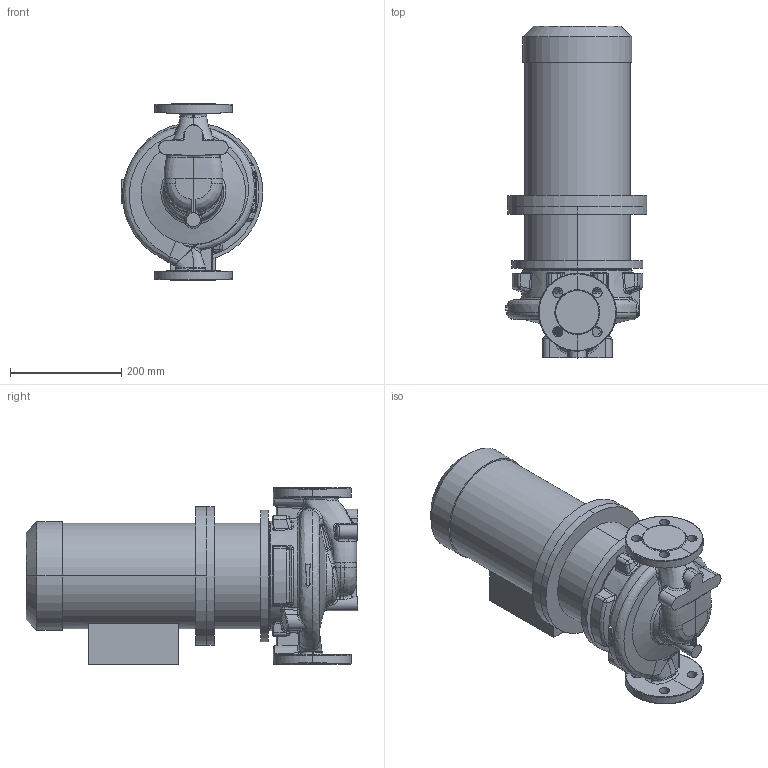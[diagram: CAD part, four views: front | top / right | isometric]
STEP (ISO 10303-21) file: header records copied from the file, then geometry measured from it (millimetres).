
FILE_DESCRIPTION (( 'STEP AP214' ), '1' );
FILE_NAME ('KRL 32-160-2-3,0.STEP', '2026-03-13T07:20:07', ( '' ), ( '' ), 'SwSTEP 2.0', 'SolidWorks 2016', '' );
FILE_SCHEMA (( 'AUTOMOTIVE_DESIGN' ));
Length unit declared in the file: millimetre
Products named in the file (1): KRL 32-160-2-3,0
Bounding box: 255 x 597.3 x 320 mm (x, y, z)
Volume: 19921307.7 mm3; surface area: 896221.2 mm2
Topology: 4 solids, 4 shells, 630 faces, 1530 edges, 907 vertices
Faces by surface type: bspline 312, cylinder 116, plane 102, cone 36, torus 35, sphere 29
Entity records: 73362 total; most frequent: CARTESIAN_POINT 54461, ORIENTED_EDGE 3018, DIRECTION 1766, EDGE_CURVE 1509, VERTEX_POINT 907, AXIS2_PLACEMENT_3D 769, B_SPLINE_CURVE_WITH_KNOTS 705, EDGE_LOOP 666
